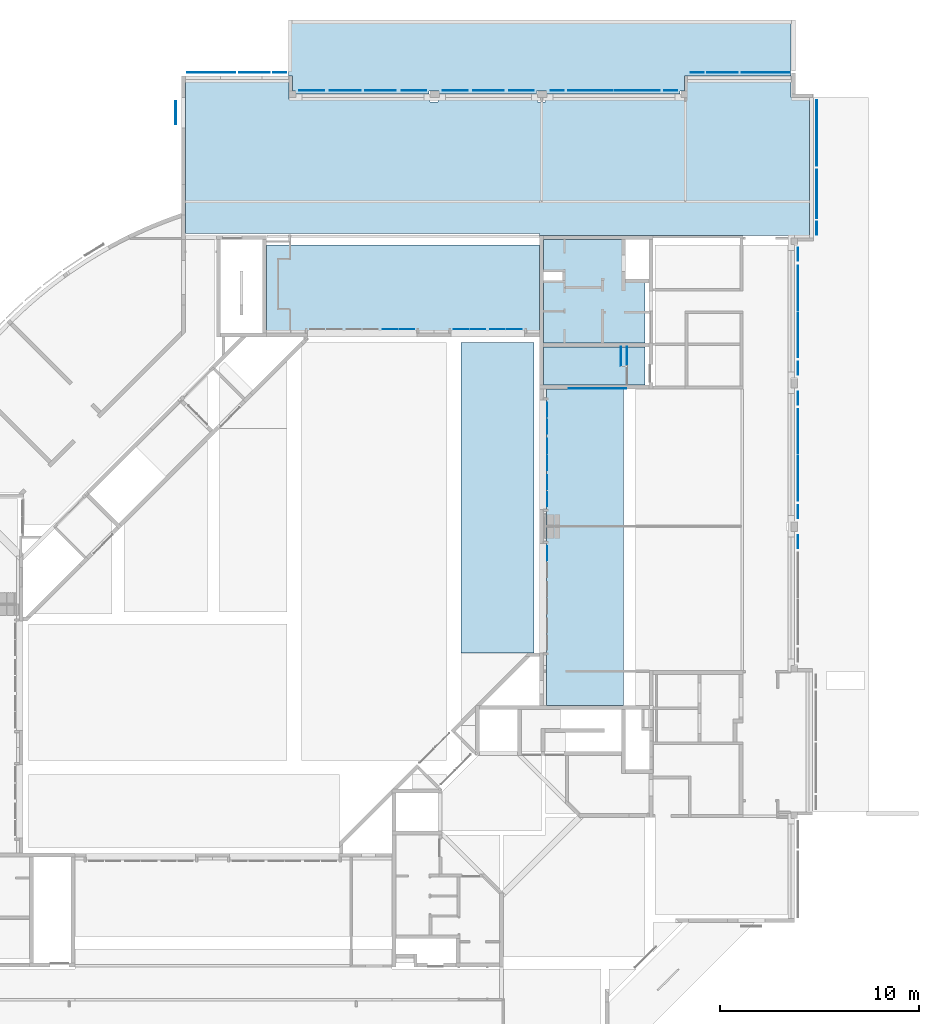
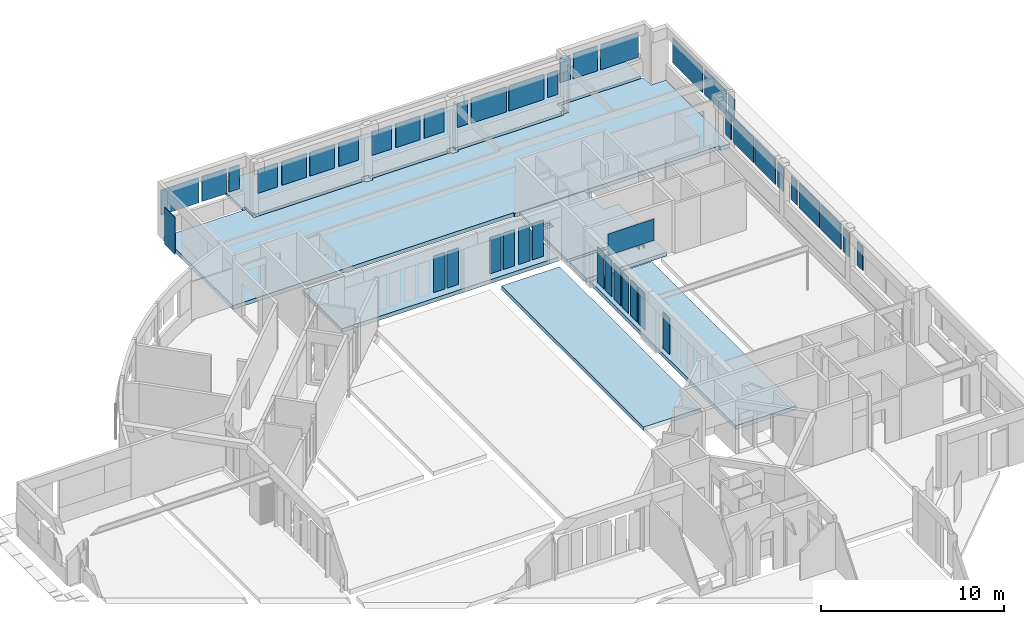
# One storey, part 10 of 30: 44 plates, 9 slabs.
"""IFC4X3_ADD2 building model written with IfcOpenShell, lengths in millimetres."""

from ifc_helpers import new_model, si_unit, direction, frame, frame_2d, origin_with_axes, origin_2d_with_axis, place, context, subcontext, project, spatial, polyline, rectangle, outline, extrude, clip, bounded_halfspace, source, transform, mapped, material, type_object, element, save


model = new_model("IFC4X3_ADD2")

# Units and contexts
model_context = context("Model", 3, precision=1e-05, world=origin_with_axes(), true_north=direction((0.0, 1.0)))
body_context = subcontext(model_context, "Body", "Model", "MODEL_VIEW")
ifc_project = project(units=[si_unit("LENGTHUNIT", "METRE", prefix="MILLI"), si_unit("AREAUNIT", "SQUARE_METRE"), si_unit("VOLUMEUNIT", "CUBIC_METRE"), si_unit("PLANEANGLEUNIT", "RADIAN"), si_unit("TIMEUNIT", "SECOND"), si_unit("MASSUNIT", "GRAM")], contexts=[model_context])

# Site, building, storey
site_placement = place(None, origin_with_axes())
site = spatial("IfcSite", under=ifc_project, at=site_placement, Name="Site", CompositionType="ELEMENT")
building_placement = place(site_placement, origin_with_axes())
building = spatial("IfcBuilding", under=site, at=building_placement, Name="IFC Building Story")
storey_placement = place(building_placement, origin_with_axes())
storey = spatial("IfcBuildingStorey", under=building, at=storey_placement, Name="000", Elevation=0.0)

# Slabs
ifc_material_1 = material(Name="BB_Beton_Bestaand")
slab_type_1 = type_object("IfcSlabType", Name="BB_Beton_Bestaand 200", PredefinedType="FLOOR", material=ifc_material_1)
slab_1_placement = place(storey_placement, frame((-12500.00406588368, 43500.00000000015, -280.0), z_axis=(0.0, 0.0, 1.0), x_axis=(0.0, -1.0, 0.0)))
element("IfcSlab", 1, at=slab_1_placement, inside=storey, type_object=slab_type_1, Name="Floor:BB_XX_Vloer uit beton, 200 mm", ObjectType="Floor:BB_XX_Vloer uit beton, 200 mm", PredefinedType="FLOOR", context=body_context, shape_type="SweptSolid", body=[
    extrude(outline(polyline([(-181.999999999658, 3070.002439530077), (3017.99999999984, 3070.002439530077), (3017.99999999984, -2030.001626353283), (-122.0000000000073, -2030.001626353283), (-122.0000000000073, -1080.001626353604), (-532.0000000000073, -1080.001626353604), (-532.0000000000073, -2030.001626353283), (-2182.000000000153, -2030.001626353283), (-2182.000000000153, 2070.002439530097), (-181.999999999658, 2070.002439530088), (-181.999999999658, 3070.002439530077)])), frame((2182.000000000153, 2030.001626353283, 0.0), z_axis=(0.0, 0.0, 1.0), x_axis=(1.0, 0.0, 0.0)), (0.0, 0.0, 1.0), 200.0),
])
slab_2_placement = place(storey_placement, frame((-25300.00000000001, 50795.0, -520.0356941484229), z_axis=(0.0, 0.0188903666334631, 0.999821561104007), x_axis=(1.0, 0.0, 0.0)))
solid = clip(clip(clip(clip(clip(clip(clip(clip(extrude(outline(polyline([(14673.00000000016, 3098.391246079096), (14673.00000000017, 289.1806708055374), (9332.999999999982, 289.1806708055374), (9332.999999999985, -460.9531822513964), (9128.000000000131, -460.9531822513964), (9128.000000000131, -610.9799528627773), (2417.999999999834, -610.9799528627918), (2417.999999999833, -460.953182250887), (1927.999999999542, -460.953182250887), (1927.999999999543, -610.9799528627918), (-2981.999999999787, -610.9799528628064), (-2981.999999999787, -460.953182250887), (-3471.999999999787, -460.953182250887), (-3471.999999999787, -610.9799528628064), (-10181.99999999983, -610.9799528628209), (-10181.99999999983, -460.9531822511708), (-10317.00000000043, -460.9531822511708), (-10317.00000000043, 289.1806707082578), (-10526.99999999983, 289.1806707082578), (-10526.99999999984, 3098.391246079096), (14673.00000000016, 3098.391246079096)])), frame((10526.99999999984, 605.8788795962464, 69.98750927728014), z_axis=(0.0, 0.0, 1.0), x_axis=(1.0, 0.0, 0.0)), (0.0, 0.0, 1.0), 200.0), bounded_halfspace(frame((25300.00000000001, 890.0157399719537, 536.9442295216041), z_axis=(0.0, -0.999821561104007, -0.01889036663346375), x_axis=(1.0, 0.0, 0.0)), False, frame((10526.99999999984, 605.8788795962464, 69.98750927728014), z_axis=(0.0, 0.0, 1.0), x_axis=(1.0, 0.0, 0.0)), polyline([(-10526.99999999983, 292.9594183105), (-10317.00000000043, 292.9594183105), (-10317.00000000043, 289.1806707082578), (-10526.99999999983, 289.1806707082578), (-10526.99999999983, 292.9594183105)]))), bounded_halfspace(frame((25300.00000000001, 140.1495692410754, 522.7764545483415), z_axis=(0.0, -0.999821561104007, -0.01889036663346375), x_axis=(1.0, 0.0, 0.0)), False, frame((10526.99999999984, 605.8788795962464, 69.98750927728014), z_axis=(0.0, 0.0, 1.0), x_axis=(1.0, 0.0, 0.0)), polyline([(-10317.00000000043, -457.1744346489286), (-10181.99999999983, -457.1744346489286), (-10181.99999999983, -460.9531822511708), (-10317.00000000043, -460.9531822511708), (-10317.00000000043, -457.1744346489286)]))), bounded_halfspace(frame((25300.00000000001, -9.823664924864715, 519.9428995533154), z_axis=(0.0, -0.999821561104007, -0.01889036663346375), x_axis=(1.0, 0.0, 0.0)), False, frame((10526.99999999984, 605.8788795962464, 69.98750927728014), z_axis=(0.0, 0.0, 1.0), x_axis=(1.0, 0.0, 0.0)), polyline([(-10181.99999999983, -607.201205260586), (-3471.999999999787, -607.2012052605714), (-3471.999999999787, -610.9799528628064), (-10181.99999999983, -610.9799528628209), (-10181.99999999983, -607.201205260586)]))), bounded_halfspace(frame((25300.00000000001, 140.1495692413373, 522.7764545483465), z_axis=(0.0, -0.999821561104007, -0.01889036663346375), x_axis=(1.0, 0.0, 0.0)), False, frame((10526.99999999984, 605.8788795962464, 69.98750927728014), z_axis=(0.0, 0.0, 1.0), x_axis=(1.0, 0.0, 0.0)), polyline([(-3471.999999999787, -457.1744346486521), (-2981.999999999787, -457.1744346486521), (-2981.999999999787, -460.953182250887), (-3471.999999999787, -460.953182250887), (-3471.999999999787, -457.1744346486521)]))), bounded_halfspace(frame((25300.00000000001, -9.823664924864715, 519.9428995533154), z_axis=(0.0, -0.999821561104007, -0.01889036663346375), x_axis=(1.0, 0.0, 0.0)), False, frame((10526.99999999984, 605.8788795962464, 69.98750927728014), z_axis=(0.0, 0.0, 1.0), x_axis=(1.0, 0.0, 0.0)), polyline([(-2981.999999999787, -607.2012052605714), (1927.999999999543, -607.2012052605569), (1927.999999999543, -610.9799528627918), (-2981.999999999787, -610.9799528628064), (-2981.999999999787, -607.2012052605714)]))), bounded_halfspace(frame((25300.00000000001, 140.1495692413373, 522.7764545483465), z_axis=(0.0, -0.999821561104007, -0.01889036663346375), x_axis=(1.0, 0.0, 0.0)), False, frame((10526.99999999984, 605.8788795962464, 69.98750927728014), z_axis=(0.0, 0.0, 1.0), x_axis=(1.0, 0.0, 0.0)), polyline([(1927.999999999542, -457.1744346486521), (2417.999999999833, -457.1744346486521), (2417.999999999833, -460.953182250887), (1927.999999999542, -460.953182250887), (1927.999999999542, -457.1744346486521)]))), bounded_halfspace(frame((25300.00000000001, -9.823664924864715, 519.9428995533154), z_axis=(0.0, -0.999821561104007, -0.01889036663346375), x_axis=(1.0, 0.0, 0.0)), False, frame((10526.99999999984, 605.8788795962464, 69.98750927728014), z_axis=(0.0, 0.0, 1.0), x_axis=(1.0, 0.0, 0.0)), polyline([(2417.999999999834, -607.2012052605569), (9128.000000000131, -607.2012052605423), (9128.000000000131, -610.9799528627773), (2417.999999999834, -610.9799528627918), (2417.999999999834, -607.2012052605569)]))), bounded_halfspace(frame((25300.00000000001, 140.1495692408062, 522.7764545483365), z_axis=(0.0, -0.999821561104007, -0.01889036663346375), x_axis=(1.0, 0.0, 0.0)), False, frame((10526.99999999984, 605.8788795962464, 69.98750927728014), z_axis=(0.0, 0.0, 1.0), x_axis=(1.0, 0.0, 0.0)), polyline([(9128.000000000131, -457.1744346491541), (9332.999999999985, -457.1744346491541), (9332.999999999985, -460.9531822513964), (9128.000000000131, -460.9531822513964), (9128.000000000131, -457.1744346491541)])))
element("IfcSlab", 2, at=slab_2_placement, inside=storey, type_object=slab_type_1, Name="Floor:BB_XX_Vloer welfsels, 200 mm", ObjectType="Floor:BB_XX_Vloer welfsels, 200 mm", PredefinedType="FLOOR", context=body_context, shape_type="Clipping", body=[
    clip(clip(solid, bounded_halfspace(frame((25300.00000000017, 890.0157400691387, 536.9442295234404), z_axis=(0.0, -0.999821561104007, -0.01889036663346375), x_axis=(1.0, 0.0, 0.0)), False, frame((10526.99999999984, 605.8788795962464, 69.98750927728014), z_axis=(0.0, 0.0, 1.0), x_axis=(1.0, 0.0, 0.0)), polyline([(9332.999999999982, 292.9594184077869), (14673.00000000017, 292.9594184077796), (14673.00000000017, 289.1806708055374), (9332.999999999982, 289.1806708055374), (9332.999999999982, 292.9594184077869)]))), bounded_halfspace(frame((25300.00000000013, 3694.446460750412, 589.930408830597), z_axis=(0.0, 0.999821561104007, 0.01889036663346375), x_axis=(-1.0, 0.0, 0.0)), False, frame((10526.99999999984, 605.8788795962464, 69.98750927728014), z_axis=(0.0, 0.0, 1.0), x_axis=(1.0, 0.0, 0.0)), polyline([(14673.00000000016, 3098.391246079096), (-10526.99999999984, 3098.391246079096), (-10526.99999999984, 3094.612498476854), (14673.00000000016, 3094.612498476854), (14673.00000000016, 3098.391246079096)]))),
])

# Plates
ifc_material_2 = material(Name="BB_Glas")
shared_shape_1 = source(origin_with_axes(), body_context, "Body", "SweptSolid", [
    extrude(rectangle(XDim=1602.000000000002, YDim=652.000000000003, at=frame_2d((0.0, 0.0), x_axis=(0.0, 1.0))), frame((0.0, 0.0, -44.0), z_axis=(0.0, 0.0, 1.0), x_axis=(1.0, 0.0, 0.0)), (0.0, 0.0, 1.0), 44.0),
])
for number, where, z_axis, x_axis in (
    (3, (1222.50000000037, 44044.0, 1765.0), (1.0, 0.0, 0.0), (0.0, 1.0, 0.0)),
    (4, (-25729.0, 51887.5000000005, 1765.0), (0.0, 1.0, 0.0), (-1.0, 0.0, 0.0)),
):
    element("IfcPlate", number, at=place(storey_placement, frame(where, z_axis=z_axis, x_axis=x_axis)), inside=storey, material=ifc_material_2, Name="BB_07.06_Buitenbeglazing, rechthoekig_GMO:07.06.72#02_Drievoudige beglazing, 44 mm, A/A*/P4A RC2, -1 en +0", ObjectType="BB_07.06_Buitenbeglazing, rechthoekig_GMO:07.06.72#02_Drievoudige beglazing, 44 mm, A/A*/P4A RC2, -1 en +0", PredefinedType="USERDEFINED", context=body_context, shape_type="MappedRepresentation", body=[
        mapped(shared_shape_1, transform((0.0, 0.0, 0.0))),
    ])
shared_shape_2 = source(origin_with_axes(), body_context, "Body", "SweptSolid", [
    extrude(rectangle(XDim=2432.0, YDim=1680.000000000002, at=origin_2d_with_axis()), frame((0.0, 0.0, -44.0), z_axis=(0.0, 0.0, 1.0), x_axis=(1.0, 0.0, 0.0)), (0.0, 0.0, 1.0), 44.0),
])
plate_1_placement = place(storey_placement, frame((1222.50000000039, 45764.0, 1765.0), z_axis=(1.0, 0.0, 0.0), x_axis=(0.0, 1.0, 0.0)))
element("IfcPlate", 5, at=plate_1_placement, inside=storey, material=ifc_material_2, Name="BB_07.06_Buitenbeglazing, rechthoekig_GMO:07.06.72#02_Drievoudige beglazing, 44 mm, A/A*/P4A RC2, -1 en +0", ObjectType="BB_07.06_Buitenbeglazing, rechthoekig_GMO:07.06.72#02_Drievoudige beglazing, 44 mm, A/A*/P4A RC2, -1 en +0", PredefinedType="USERDEFINED", context=body_context, shape_type="MappedRepresentation", body=[
    mapped(shared_shape_2, transform((0.0, 0.0, 0.0))),
])
shared_shape_3 = source(origin_with_axes(), body_context, "Body", "SweptSolid", [
    extrude(rectangle(XDim=1602.000000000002, YDim=652.0000000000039, at=frame_2d((0.0, 0.0), x_axis=(0.0, 1.0))), frame((0.0, 0.0, -44.0), z_axis=(0.0, 0.0, 1.0), x_axis=(1.0, 0.0, 0.0)), (0.0, 0.0, 1.0), 44.0),
])
for number, where, z_axis, x_axis in (
    (6, (287.500000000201, 28336.0, 1765.0), (1.0, 0.0, 0.0), (0.0, -1.0, 0.0)),
    (7, (287.500000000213, 35536.0, 1765.0), (1.0, 0.0, 0.0), (0.0, -1.0, 0.0)),
    (8, (287.500000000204, 29824.0, 1765.0), (1.0, 0.0, 0.0), (0.0, -1.0, 0.0)),
    (9, (287.500000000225, 42736.0, 1765.0), (1.0, 0.0, 0.0), (0.0, -1.0, 0.0)),
    (10, (287.500000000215, 37024.0, 1765.0), (1.0, 0.0, 0.0), (0.0, -1.0, 0.0)),
    (11, (-11821.0, 50987.5000000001, 1765.0), (0.0, 1.0, 0.0), (1.0, 0.0, 0.0)),
    (12, (-6109.0, 50987.5000000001, 1765.0), (0.0, 1.0, 0.0), (1.0, 0.0, 0.0)),
    (13, (-4801.0, 51887.5000000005, 1765.0), (0.0, 1.0, 0.0), (1.0, 0.0, 0.0)),
):
    element("IfcPlate", number, at=place(storey_placement, frame(where, z_axis=z_axis, x_axis=x_axis)), inside=storey, material=ifc_material_2, Name="BB_07.06_Buitenbeglazing, rechthoekig_GMO:07.06.72#02_Drievoudige beglazing, 44 mm, A/A*/P4A RC2, -1 en +0", ObjectType="BB_07.06_Buitenbeglazing, rechthoekig_GMO:07.06.72#02_Drievoudige beglazing, 44 mm, A/A*/P4A RC2, -1 en +0", PredefinedType="USERDEFINED", context=body_context, shape_type="MappedRepresentation", body=[
        mapped(shared_shape_3, transform((0.0, 0.0, 0.0))),
    ])
shared_shape_4 = source(origin_with_axes(), body_context, "Body", "SweptSolid", [
    extrude(rectangle(XDim=1680.000000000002, YDim=1532.000000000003, at=frame_2d((0.0, 0.0), x_axis=(0.0, 1.0))), frame((0.0, 0.0, -44.0), z_axis=(0.0, 0.0, 1.0), x_axis=(1.0, 0.0, 0.0)), (0.0, 0.0, 1.0), 44.0),
])
plate_2_placement = place(storey_placement, frame((-26999.0, 51887.5000000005, 1765.0), z_axis=(0.0, 1.0, 0.0), x_axis=(-1.0, 0.0, 0.0)))
element("IfcPlate", 14, at=plate_2_placement, inside=storey, material=ifc_material_2, Name="BB_07.06_Buitenbeglazing, rechthoekig_GMO:07.06.72#02_Drievoudige beglazing, 44 mm, A/A*/P4A RC2, -1 en +0", ObjectType="BB_07.06_Buitenbeglazing, rechthoekig_GMO:07.06.72#02_Drievoudige beglazing, 44 mm, A/A*/P4A RC2, -1 en +0", PredefinedType="USERDEFINED", context=body_context, shape_type="MappedRepresentation", body=[
    mapped(shared_shape_4, transform((0.0, 0.0, 0.0))),
])
shared_shape_5 = source(origin_with_axes(), body_context, "Body", "SweptSolid", [
    extrude(rectangle(XDim=2400.0, YDim=1680.000000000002, at=origin_2d_with_axis()), frame((0.0, 0.0, -44.0), z_axis=(0.0, 0.0, 1.0), x_axis=(1.0, 0.0, 0.0)), (0.0, 0.0, 1.0), 44.0),
])
plate_3_placement = place(storey_placement, frame((-29165.0, 51887.5000000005, 1765.0), z_axis=(0.0, 1.0, 0.0), x_axis=(-1.0, 0.0, 0.0)))
element("IfcPlate", 15, at=plate_3_placement, inside=storey, material=ifc_material_2, Name="BB_07.06_Buitenbeglazing, rechthoekig_GMO:07.06.72#02_Drievoudige beglazing, 44 mm, A/A*/P4A RC2, -1 en +0", ObjectType="BB_07.06_Buitenbeglazing, rechthoekig_GMO:07.06.72#02_Drievoudige beglazing, 44 mm, A/A*/P4A RC2, -1 en +0", PredefinedType="USERDEFINED", context=body_context, shape_type="MappedRepresentation", body=[
    mapped(shared_shape_5, transform((0.0, 0.0, 0.0))),
])
shared_shape_6 = source(origin_with_axes(), body_context, "Body", "SweptSolid", [
    extrude(rectangle(XDim=1680.000000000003, YDim=1532.000000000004, at=frame_2d((0.0, 0.0), x_axis=(0.0, 1.0))), frame((0.0, 0.0, -44.0), z_axis=(0.0, 0.0, 1.0), x_axis=(1.0, 0.0, 0.0)), (0.0, 0.0, 1.0), 44.0),
])
plate_4_placement = place(storey_placement, frame((-3531.0, 51887.5000000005, 1765.0), z_axis=(0.0, 1.0, 0.0), x_axis=(1.0, 0.0, 0.0)))
element("IfcPlate", 16, at=plate_4_placement, inside=storey, material=ifc_material_2, Name="BB_07.06_Buitenbeglazing, rechthoekig_GMO:07.06.72#02_Drievoudige beglazing, 44 mm, A/A*/P4A RC2, -1 en +0", ObjectType="BB_07.06_Buitenbeglazing, rechthoekig_GMO:07.06.72#02_Drievoudige beglazing, 44 mm, A/A*/P4A RC2, -1 en +0", PredefinedType="USERDEFINED", context=body_context, shape_type="MappedRepresentation", body=[
    mapped(shared_shape_6, transform((0.0, 0.0, 0.0))),
])
shared_shape_7 = source(origin_with_axes(), body_context, "Body", "SweptSolid", [
    extrude(rectangle(XDim=2400.0, YDim=1680.000000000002, at=origin_2d_with_axis()), frame((0.0, 0.0, -44.0), z_axis=(0.0, 0.0, 1.0), x_axis=(1.0, 0.0, 0.0)), (0.0, 0.0, 1.0), 44.0),
])
plate_5_placement = place(storey_placement, frame((-1365.0, 51887.5000000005, 1765.0), z_axis=(0.0, 1.0, 0.0), x_axis=(1.0, 0.0, 0.0)))
element("IfcPlate", 17, at=plate_5_placement, inside=storey, material=ifc_material_2, Name="BB_07.06_Buitenbeglazing, rechthoekig_GMO:07.06.72#02_Drievoudige beglazing, 44 mm, A/A*/P4A RC2, -1 en +0", ObjectType="BB_07.06_Buitenbeglazing, rechthoekig_GMO:07.06.72#02_Drievoudige beglazing, 44 mm, A/A*/P4A RC2, -1 en +0", PredefinedType="USERDEFINED", context=body_context, shape_type="MappedRepresentation", body=[
    mapped(shared_shape_7, transform((0.0, 0.0, 0.0))),
])
shared_shape_8 = source(origin_with_axes(), body_context, "Body", "SweptSolid", [
    extrude(rectangle(XDim=2222.0, YDim=1680.000000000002, at=origin_2d_with_axis()), frame((0.0, 0.0, -44.0), z_axis=(0.0, 0.0, 1.0), x_axis=(1.0, 0.0, 0.0)), (0.0, 0.0, 1.0), 44.0),
])
for number, where, z_axis, x_axis in (
    (18, (287.500000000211, 33861.0, 1765.0), (1.0, 0.0, 0.0), (0.0, -1.0, 0.0)),
    (19, (287.500000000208, 31499.0, 1765.0), (1.0, 0.0, 0.0), (0.0, -1.0, 0.0)),
    (20, (287.500000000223, 41061.0, 1765.0), (1.0, 0.0, 0.0), (0.0, -1.0, 0.0)),
    (21, (287.50000000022, 38699.0, 1765.0), (1.0, 0.0, 0.0), (0.0, -1.0, 0.0)),
    (22, (-10146.0, 50987.5000000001, 1765.0), (0.0, 1.0, 0.0), (1.0, 0.0, 0.0)),
    (23, (-7784.0, 50987.5000000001, 1765.0), (0.0, 1.0, 0.0), (1.0, 0.0, 0.0)),
):
    element("IfcPlate", number, at=place(storey_placement, frame(where, z_axis=z_axis, x_axis=x_axis)), inside=storey, material=ifc_material_2, Name="BB_07.06_Buitenbeglazing, rechthoekig_GMO:07.06.72#02_Drievoudige beglazing, 44 mm, A/A*/P4A RC2, -1 en +0", ObjectType="BB_07.06_Buitenbeglazing, rechthoekig_GMO:07.06.72#02_Drievoudige beglazing, 44 mm, A/A*/P4A RC2, -1 en +0", PredefinedType="USERDEFINED", context=body_context, shape_type="MappedRepresentation", body=[
        mapped(shared_shape_8, transform((0.0, 0.0, 0.0))),
    ])
shared_shape_9 = source(origin_with_axes(), body_context, "Body", "SweptSolid", [
    extrude(rectangle(XDim=3300.0, YDim=1680.000000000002, at=origin_2d_with_axis()), frame((0.0, 0.0, -44.0), z_axis=(0.0, 0.0, 1.0), x_axis=(1.0, 0.0, 0.0)), (0.0, 0.0, 1.0), 44.0),
])
plate_6_placement = place(storey_placement, frame((1222.50000000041, 48830.0, 1765.0), z_axis=(1.0, 0.0, 0.0), x_axis=(0.0, 1.0, 0.0)))
element("IfcPlate", 24, at=plate_6_placement, inside=storey, material=ifc_material_2, Name="BB_07.06_Buitenbeglazing, rechthoekig_GMO:07.06.72#02_Drievoudige beglazing, 44 mm, A/A*/P4A RC2, -1 en +0", ObjectType="BB_07.06_Buitenbeglazing, rechthoekig_GMO:07.06.72#02_Drievoudige beglazing, 44 mm, A/A*/P4A RC2, -1 en +0", PredefinedType="USERDEFINED", context=body_context, shape_type="MappedRepresentation", body=[
    mapped(shared_shape_9, transform((0.0, 0.0, 0.0))),
])
shared_shape_10 = source(origin_with_axes(), body_context, "Body", "SweptSolid", [
    extrude(rectangle(XDim=1602.000000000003, YDim=1242.000000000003, at=frame_2d((0.0, 0.0), x_axis=(0.0, 1.0))), frame((0.0, 0.0, -28.0), z_axis=(0.0, 0.0, 1.0), x_axis=(1.0, 0.0, 0.0)), (0.0, 0.0, 1.0), 28.0),
])
for number, where, z_axis, x_axis in (
    (25, (-16925.0, 50987.5000000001, 1765.0), (0.0, 1.0, 0.0), (1.0, 0.0, 0.0)),
    (26, (-13605.0, 50987.5000000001, 1765.0), (0.0, 1.0, 0.0), (1.0, 0.0, 0.0)),
):
    element("IfcPlate", number, at=place(storey_placement, frame(where, z_axis=z_axis, x_axis=x_axis)), inside=storey, material=ifc_material_2, Name="BB_07.06_Buitenbeglazing, rechthoekig_GMO:07.06.41#03_Dubbele beglazing RWA +0, 28 mm", ObjectType="BB_07.06_Buitenbeglazing, rechthoekig_GMO:07.06.41#03_Dubbele beglazing RWA +0, 28 mm", PredefinedType="USERDEFINED", context=body_context, shape_type="MappedRepresentation", body=[
        mapped(shared_shape_10, transform((0.0, 0.0, 0.0))),
    ])
shared_shape_11 = source(origin_with_axes(), body_context, "Body", "SweptSolid", [
    extrude(rectangle(XDim=1602.000000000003, YDim=1522.000000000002, at=frame_2d((0.0, 0.0), x_axis=(0.0, 1.0))), frame((0.0, 0.0, -28.0), z_axis=(0.0, 0.0, 1.0), x_axis=(1.0, 0.0, 0.0)), (0.0, 0.0, 1.0), 28.0),
])
plate_7_placement = place(storey_placement, frame((-15265.0, 50987.5000000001, 1765.0), z_axis=(0.0, 1.0, 0.0), x_axis=(1.0, 0.0, 0.0)))
element("IfcPlate", 27, at=plate_7_placement, inside=storey, material=ifc_material_2, Name="BB_07.06_Buitenbeglazing, rechthoekig_GMO:07.06.41#03_Dubbele beglazing RWA +0, 28 mm", ObjectType="BB_07.06_Buitenbeglazing, rechthoekig_GMO:07.06.41#03_Dubbele beglazing RWA +0, 28 mm", PredefinedType="USERDEFINED", context=body_context, shape_type="MappedRepresentation", body=[
    mapped(shared_shape_11, transform((0.0, 0.0, 0.0))),
])
shared_shape_12 = source(origin_with_axes(), body_context, "Body", "SweptSolid", [
    extrude(rectangle(XDim=1602.000000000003, YDim=1244.000000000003, at=frame_2d((0.0, 0.0), x_axis=(0.0, 1.0))), frame((0.0, 0.0, -28.0), z_axis=(0.0, 0.0, 1.0), x_axis=(1.0, 0.0, 0.0)), (0.0, 0.0, 1.0), 28.0),
])
for number, where, z_axis, x_axis in (
    (28, (-24125.0, 50987.5000000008, 1765.0), (0.0, 1.0, 0.0), (1.0, 0.0, 0.0)),
    (29, (-19005.0, 50987.5000000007, 1765.0), (0.0, 1.0, 0.0), (1.0, 0.0, 0.0)),
):
    element("IfcPlate", number, at=place(storey_placement, frame(where, z_axis=z_axis, x_axis=x_axis)), inside=storey, material=ifc_material_2, Name="BB_07.06_Buitenbeglazing, rechthoekig_GMO:07.06.41#03_Dubbele beglazing RWA +0, 28 mm", ObjectType="BB_07.06_Buitenbeglazing, rechthoekig_GMO:07.06.41#03_Dubbele beglazing RWA +0, 28 mm", PredefinedType="USERDEFINED", context=body_context, shape_type="MappedRepresentation", body=[
        mapped(shared_shape_12, transform((0.0, 0.0, 0.0))),
    ])
shared_shape_13 = source(origin_with_axes(), body_context, "Body", "SweptSolid", [
    extrude(rectangle(XDim=1602.000000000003, YDim=1552.000000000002, at=frame_2d((0.0, 0.0), x_axis=(0.0, 1.0))), frame((0.0, 0.0, -28.0), z_axis=(0.0, 0.0, 1.0), x_axis=(1.0, 0.0, 0.0)), (0.0, 0.0, 1.0), 28.0),
])
for number, where, z_axis, x_axis in (
    (30, (-22450.0, 50987.5000000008, 1765.0), (0.0, 1.0, 0.0), (1.0, 0.0, 0.0)),
    (31, (-20680.0, 50987.5000000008, 1765.0), (0.0, 1.0, 0.0), (1.0, 0.0, 0.0)),
):
    element("IfcPlate", number, at=place(storey_placement, frame(where, z_axis=z_axis, x_axis=x_axis)), inside=storey, material=ifc_material_2, Name="BB_07.06_Buitenbeglazing, rechthoekig_GMO:07.06.41#03_Dubbele beglazing RWA +0, 28 mm", ObjectType="BB_07.06_Buitenbeglazing, rechthoekig_GMO:07.06.41#03_Dubbele beglazing RWA +0, 28 mm", PredefinedType="USERDEFINED", context=body_context, shape_type="MappedRepresentation", body=[
        mapped(shared_shape_13, transform((0.0, 0.0, 0.0))),
    ])
ifc_material_3 = material(Name="BB_Metaal_Aluminium_Buitenschrijnwerk")
shared_shape_14 = source(origin_with_axes(), body_context, "Body", "SweptSolid", [
    extrude(rectangle(XDim=2473.0, YDim=1164.000000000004, at=frame_2d((0.0, 0.0), x_axis=(0.0, 1.0))), frame((0.0, 0.0, -44.0), z_axis=(0.0, 0.0, 1.0), x_axis=(1.0, 0.0, 0.0)), (0.0, 0.0, 1.0), 44.0),
])
plate_8_placement = place(storey_placement, frame((-30967.4999999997, 49845.0, 1323.49999999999), z_axis=(-1.0, 0.0, 0.0), x_axis=(0.0, -1.0, 0.0)))
element("IfcPlate", 32, at=plate_8_placement, inside=storey, material=ifc_material_3, Name="BB_07.06_Buitenbeglazing, rechthoekig_GMO:07.04.63#01_Vulpaneel, 44 mm", ObjectType="BB_07.06_Buitenbeglazing, rechthoekig_GMO:07.04.63#01_Vulpaneel, 44 mm", PredefinedType="USERDEFINED", context=body_context, shape_type="MappedRepresentation", body=[
    mapped(shared_shape_14, transform((0.0, 0.0, 0.0))),
])
shared_shape_15 = source(origin_with_axes(), body_context, "Body", "SweptSolid", [
    extrude(rectangle(XDim=2433.0, YDim=713.500000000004, at=frame_2d((0.0, 0.0), x_axis=(0.0, 1.0))), frame((0.0, 0.0, -17.0), z_axis=(0.0, 0.0, 1.0), x_axis=(1.0, 0.0, 0.0)), (0.0, 0.0, 1.0), 17.0),
])
for number, where, z_axis, x_axis in (
    (33, (-12321.5000000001, 27747.2500000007, 1344.0), (-1.0, 0.0, 0.0), (0.0, 1.0, 0.0)),
    (34, (-12321.5000000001, 31307.2500000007, 1344.0), (-1.0, 0.0, 0.0), (0.0, 1.0, 0.0)),
    (35, (-12321.5000000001, 30452.7500000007, 1344.0), (-1.0, 0.0, 0.0), (0.0, 1.0, 0.0)),
    (36, (-12321.5000000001, 32272.7500000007, 1344.0), (-1.0, 0.0, 0.0), (0.0, 1.0, 0.0)),
    (37, (-12321.5000000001, 33127.2500000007, 1344.0), (-1.0, 0.0, 0.0), (0.0, 1.0, 0.0)),
    (38, (-12321.5000000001, 34092.7500000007, 1344.0), (-1.0, 0.0, 0.0), (0.0, 1.0, 0.0)),
    (39, (-12321.5, 34947.2500000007, 1344.0), (-1.0, 0.0, 0.0), (0.0, 1.0, 0.0)),
    (40, (-20207.2499999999, 38978.5000000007, 1344.0), (0.0, -1.0, 0.0), (-1.0, 0.0, 0.0)),
    (41, (-19352.7499999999, 38978.5000000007, 1344.0), (0.0, -1.0, 0.0), (-1.0, 0.0, 0.0)),
):
    element("IfcPlate", number, at=place(storey_placement, frame(where, z_axis=z_axis, x_axis=x_axis)), inside=storey, material=ifc_material_2, Name="BB_10.10_Binnenbeglazing, rechthoekig_GMO:10.10.32#02_Enkelvoudige beglazing, 2B2, 40dB", ObjectType="BB_10.10_Binnenbeglazing, rechthoekig_GMO:10.10.32#02_Enkelvoudige beglazing, 2B2, 40dB", PredefinedType="USERDEFINED", context=body_context, shape_type="MappedRepresentation", body=[
        mapped(shared_shape_15, transform((0.0, 0.0, 0.0))),
    ])
shared_shape_16 = source(origin_with_axes(), body_context, "Body", "SweptSolid", [
    extrude(rectangle(XDim=2430.0, YDim=718.500000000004, at=frame_2d((0.0, 0.0), x_axis=(0.0, 1.0))), frame((0.0, 0.0, -17.0), z_axis=(0.0, 0.0, 1.0), x_axis=(1.0, 0.0, 0.0)), (0.0, 0.0, 1.0), 17.0),
])
for number, where, z_axis, x_axis in (
    (42, (-14814.7499999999, 38978.5000000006, 1344.0), (0.0, -1.0, 0.0), (-1.0, 0.0, 0.0)),
    (43, (-13955.2499999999, 38978.5000000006, 1344.0), (0.0, -1.0, 0.0), (-1.0, 0.0, 0.0)),
    (44, (-15785.2499999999, 38978.5000000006, 1344.0), (0.0, -1.0, 0.0), (-1.0, 0.0, 0.0)),
    (45, (-16644.7499999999, 38978.5000000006, 1344.0), (0.0, -1.0, 0.0), (-1.0, 0.0, 0.0)),
):
    element("IfcPlate", number, at=place(storey_placement, frame(where, z_axis=z_axis, x_axis=x_axis)), inside=storey, material=ifc_material_2, Name="BB_10.10_Binnenbeglazing, rechthoekig_GMO:10.10.32#02_Enkelvoudige beglazing, 2B2, 40dB", ObjectType="BB_10.10_Binnenbeglazing, rechthoekig_GMO:10.10.32#02_Enkelvoudige beglazing, 2B2, 40dB", PredefinedType="USERDEFINED", context=body_context, shape_type="MappedRepresentation", body=[
        mapped(shared_shape_16, transform((0.0, 0.0, 0.0))),
    ])
shared_shape_17 = source(origin_with_axes(), body_context, "Body", "SweptSolid", [
    extrude(rectangle(XDim=2884.0, YDim=1424.000000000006, at=origin_2d_with_axis()), frame((0.0, 0.0, -17.0), z_axis=(0.0, 0.0, 1.0), x_axis=(1.0, 0.0, 0.0)), (0.0, 0.0, 1.0), 17.0),
])
plate_9_placement = place(storey_placement, frame((-9800.0, 35997.0, 1870.0), z_axis=(0.0, -1.0, 0.0), x_axis=(1.0, 0.0, 0.0)))
element("IfcPlate", 46, at=plate_9_placement, inside=storey, material=ifc_material_2, Name="BB_10.10_Binnenbeglazing, rechthoekig_GMO:10.10.32#02_Enkelvoudige beglazing, 2B2, 40dB", ObjectType="BB_10.10_Binnenbeglazing, rechthoekig_GMO:10.10.32#02_Enkelvoudige beglazing, 2B2, 40dB", PredefinedType="USERDEFINED", context=body_context, shape_type="MappedRepresentation", body=[
    mapped(shared_shape_17, transform((0.0, 0.0, 0.0))),
])

# Slabs
slab_type_2 = type_object("IfcSlabType", Name="BB_Beton_Bestaand 260", PredefinedType="FLOOR", material=ifc_material_1)
slab_3_placement = place(storey_placement, frame((-26400.00000000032, 38899.99593411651, -460.0), z_axis=(0.0, 0.0, 1.0), x_axis=(1.0, 0.0, 0.0)))
element("IfcSlab", 47, at=slab_3_placement, inside=storey, type_object=slab_type_2, Name="Floor:BB_XX_Vloer welfsels, 260 mm", ObjectType="Floor:BB_XX_Vloer welfsels, 260 mm", PredefinedType="FLOOR", context=body_context, shape_type="SweptSolid", body=[
    extrude(rectangle(XDim=13699.99593411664, YDim=4300.004065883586, at=origin_2d_with_axis()), frame((6849.99796705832, 2150.002032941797, 0.0), z_axis=(0.0, 0.0, 1.0), x_axis=(1.0, 0.0, 0.0)), (0.0, 0.0, 1.0), 260.0),
])
slab_4_placement = place(storey_placement, frame((-12350.00000000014, 36000.0000000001, -460.0), z_axis=(0.0, 0.0, 1.0), x_axis=(0.0, -1.0, 0.0)))
element("IfcSlab", 48, at=slab_4_placement, inside=storey, type_object=slab_type_2, Name="Floor:BB_XX_Vloer uit beton, 260 mm", ObjectType="Floor:BB_XX_Vloer uit beton, 260 mm", PredefinedType="FLOOR", context=body_context, shape_type="SweptSolid", body=[
    extrude(rectangle(XDim=15900.00000000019, YDim=3850.000000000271, at=frame_2d((0.0, 0.0), x_axis=(-1.0, 0.0))), frame((7950.000000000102, 1925.000000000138, 0.0), z_axis=(0.0, 0.0, 1.0), x_axis=(1.0, 0.0, 0.0)), (0.0, 0.0, 1.0), 260.0),
])
slab_5_placement = place(storey_placement, frame((-12500.00406588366, 36199.99999999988, -340.0), z_axis=(0.0, 0.0, 1.0), x_axis=(1.0, 0.0, 0.0)))
element("IfcSlab", 49, at=slab_5_placement, inside=storey, type_object=slab_type_2, Name="Floor:BB_XX_Vloer uit beton, 260 mm", ObjectType="Floor:BB_XX_Vloer uit beton, 260 mm", PredefinedType="FLOOR", context=body_context, shape_type="SweptSolid", body=[
    extrude(rectangle(XDim=5100.00406588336, YDim=1900.000000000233, at=origin_2d_with_axis()), frame((2550.00203294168, 950.0000000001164, 0.0), z_axis=(0.0, 0.0, 1.0), x_axis=(1.0, 0.0, 0.0)), (0.0, 0.0, 1.0), 260.0),
])
slab_6_placement = place(storey_placement, frame((-30465.0, 43575.0000000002, -460.0), z_axis=(0.0, 0.0, 1.0), x_axis=(1.0, 0.0, 0.0)))
element("IfcSlab", 50, at=slab_6_placement, inside=storey, type_object=slab_type_2, Name="Floor:BB_XX_Vloer welfsels, 260 mm", ObjectType="Floor:BB_XX_Vloer welfsels, 260 mm", PredefinedType="FLOOR", context=body_context, shape_type="SweptSolid", body=[
    extrude(outline(polyline([(-1067.726598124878, -5247.085625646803), (-1067.726598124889, -5147.085625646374), (-18832.7225322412, -5147.085625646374), (-18832.7225322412, 2457.91437435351), (-13627.7225322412, 2457.914374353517), (-13627.7225322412, 1557.914374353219), (-6567.053919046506, 1557.914374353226), (-6567.05391904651, 1432.914374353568), (-6167.05391904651, 1432.914374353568), (-6167.05391904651, 1557.914374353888), (-1167.053919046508, 1557.914374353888), (-1167.053919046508, 1432.914374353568), (-767.053919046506, 1432.914374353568), (-767.053919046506, 1557.914374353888), (5987.277467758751, 1557.914374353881), (5987.277467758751, 1657.914374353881), (6327.277467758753, 1657.914374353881), (6327.277467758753, 2457.914374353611), (11532.2774677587, 2457.914374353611), (11532.2774677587, 1652.941882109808), (12472.2774677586, 1652.941882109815), (12472.27746775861, -5372.085625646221), (11877.2774677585, -5372.085625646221), (11877.2774677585, -5247.085625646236), (-1067.726598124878, -5247.085625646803)])), frame((18832.7225322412, 5372.085625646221, 0.0), z_axis=(0.0, 0.0, 1.0), x_axis=(1.0, 0.0, 0.0)), (0.0, 0.0, 1.0), 260.0),
])
slab_7_placement = place(storey_placement, frame((-16639.99999999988, 38329.99593411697, -660.0), z_axis=(0.0, 0.0, 1.0), x_axis=(0.0, -1.0, 0.0)))
element("IfcSlab", 51, at=slab_7_placement, inside=storey, type_object=slab_type_2, Name="Floor:BB_XX_Vloer uit beton, 260 mm", ObjectType="Floor:BB_XX_Vloer uit beton, 260 mm", PredefinedType="FLOOR", context=body_context, shape_type="SweptSolid", body=[
    extrude(rectangle(XDim=15574.9959341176, YDim=3669.99999999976, at=frame_2d((0.0, 0.0), x_axis=(-1.0, 0.0))), frame((7787.4979670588, 1834.99999999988, 0.0), z_axis=(0.0, 0.0, 1.0), x_axis=(1.0, 0.0, 0.0)), (0.0, 0.0, 1.0), 260.0),
])
ifc_material_4 = material(Name="BB_09.08.21#03_Vloer_Verhoogd_Bestaande te verhogen")
slab_type_3 = type_object("IfcSlabType", Name="BB_09.08.21#03_Vloer_Verhoogd_Bestaande te verhogen 20", PredefinedType="FLOOR", material=ifc_material_4)
slab_8_placement = place(storey_placement, frame((-8620.0, 38099.99999999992, -80.0), z_axis=(-1.0, 0.0, 0.0), x_axis=(0.0, -1.0, 0.0)))
element("IfcSlab", 52, at=slab_8_placement, inside=storey, type_object=slab_type_3, Name="Basic Wall:BB_09.08.XX_Rand verhoogde vloer, 20 mm", ObjectType="Basic Wall:BB_09.08.XX_Rand verhoogde vloer, 20 mm", PredefinedType="FLOOR", context=body_context, shape_type="SweptSolid", body=[
    extrude(outline(polyline([(-489.9999999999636, 187.5), (489.9999999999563, 187.5), (489.9999999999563, -187.5), (-489.9999999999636, -187.5), (-489.9999999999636, 187.5)])), frame((489.9999999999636, 187.5, -20.0), z_axis=(0.0, 0.0, 1.0), x_axis=(1.0, 0.0, 0.0)), (0.0, 0.0, 1.0), 19.99999999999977),
])
slab_9_placement = place(storey_placement, frame((-8320.0, 38099.99999999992, -80.0), z_axis=(-1.0, 0.0, 0.0), x_axis=(0.0, -1.0, 0.0)))
element("IfcSlab", 53, at=slab_9_placement, inside=storey, type_object=slab_type_3, Name="Basic Wall:BB_09.08.XX_Rand verhoogde vloer, 20 mm", ObjectType="Basic Wall:BB_09.08.XX_Rand verhoogde vloer, 20 mm", PredefinedType="FLOOR", context=body_context, shape_type="SweptSolid", body=[
    extrude(outline(polyline([(-489.9999999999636, 112.5), (489.9999999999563, 112.5), (489.9999999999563, -112.5), (-489.9999999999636, -112.5), (-489.9999999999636, 112.5)])), frame((489.9999999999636, 112.5, -20.0), z_axis=(0.0, 0.0, 1.0), x_axis=(1.0, 0.0, 0.0)), (0.0, 0.0, 1.0), 19.99999999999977),
])

save(model, "model.ifc")
